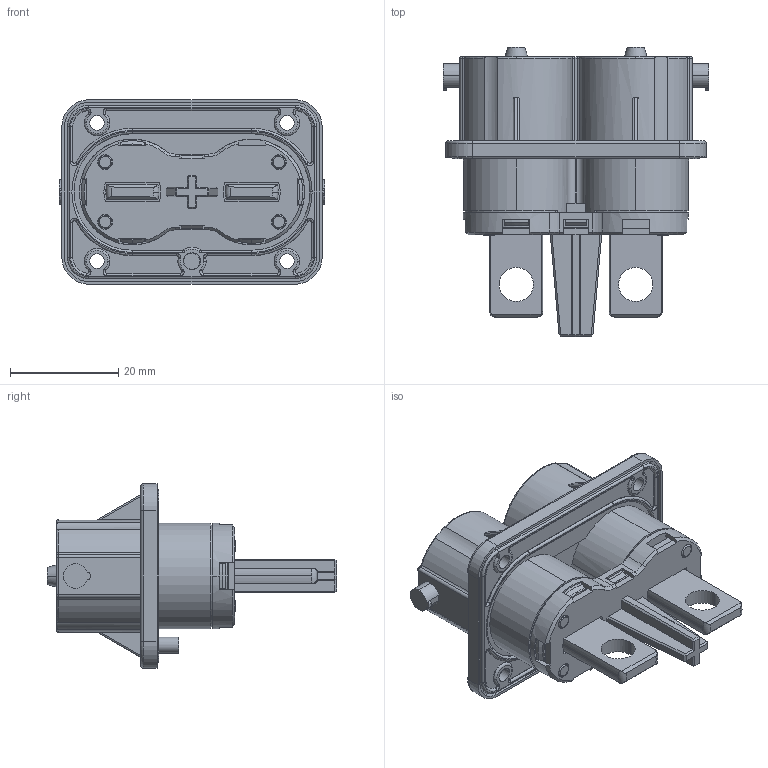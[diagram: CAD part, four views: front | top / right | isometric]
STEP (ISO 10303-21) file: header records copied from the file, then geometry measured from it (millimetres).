
FILE_DESCRIPTION (( 'STEP AP214' ), '1' );
FILE_NAME ('PL082()-120-121.STEP', '2018-04-18T06:10:18', ( '' ), ( '' ), 'SwSTEP 2.0', 'SolidWorks 2017', '' );
FILE_SCHEMA (( 'AUTOMOTIVE_DESIGN' ));
Length unit declared in the file: millimetre
Products named in the file (1): PL082()-120-121
Bounding box: 49 x 53.3 x 34 mm (x, y, z)
Volume: 22984.1 mm3; surface area: 12269.2 mm2
Topology: 3 solids, 4 shells, 767 faces, 2022 edges, 1280 vertices
Faces by surface type: plane 307, cylinder 282, torus 101, cone 65, bspline 8, sphere 4
Entity records: 32855 total; most frequent: CARTESIAN_POINT 5072, DIRECTION 4253, ORIENTED_EDGE 4028, EDGE_CURVE 2014, AXIS2_PLACEMENT_3D 1611, VERTEX_POINT 1276, VECTOR 1031, LINE 1031
